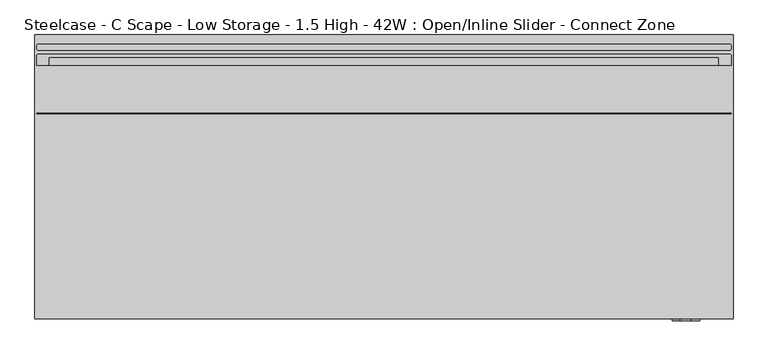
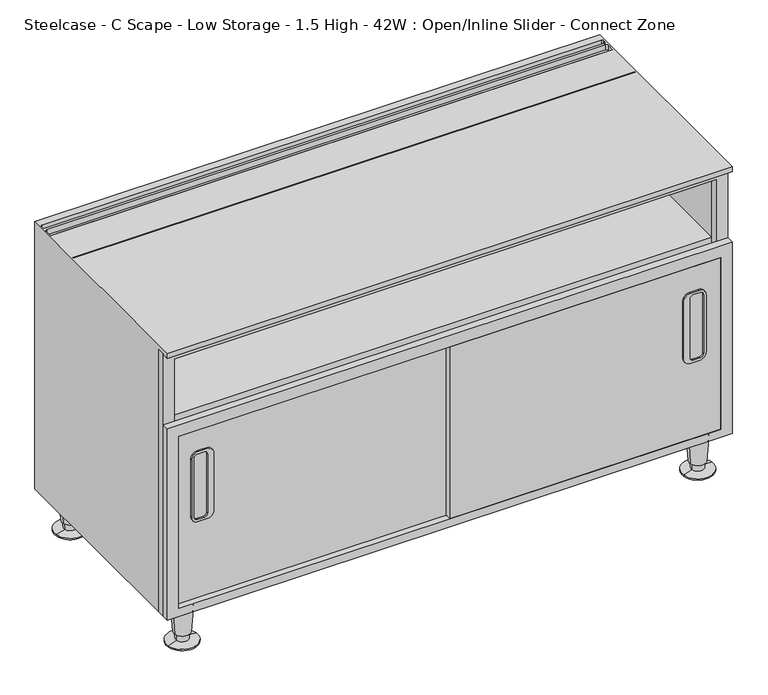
"""IFC4 building model written with IfcOpenShell, lengths in millimetres: furniture geometry, Steelcase - C Scape - Low Storage - 1.5 High - 42W : Open/Inline Slider - Connect Zone."""

from ifc_helpers import new_model, si_unit, point, frame, frame_2d, origin, place, context, project, spatial, polyline, circle_curve, trimmed, segment, composite_curve, outline, extrude, source, transform, mapped, element, save
from ifc_brep_helpers import plane_surface, cylinder_surface, revolved_surface, advanced_brep


def steelcase_c_scape_low_storage_1_5_high_42w_open_inline_a0bd3dcf(model_context):
    return source(origin(), model_context, "Body", "SolidModel", [
        extrude(outline(composite_curve([segment(polyline([(373.5963095, 972.3248301), (259.2993979, 972.3248301)]), True, "CONTINUOUS"), segment(trimmed(circle_curve(frame_2d((259.2993979, 985.0263804)), 12.7015503), [point((259.2993979, 972.3248301))], [point((246.5978477, 985.0263804))], False, "CARTESIAN"), True, "CONTINUOUS"), segment(polyline([(246.5978477, 985.0263804), (246.5978477, 1001.9160471)]), True, "CONTINUOUS"), segment(trimmed(circle_curve(frame_2d((259.2970725, 1001.9160471)), 12.6992249), [point((246.5978477, 1001.9160471))], [point((259.2970725, 1014.615272))], False, "CARTESIAN"), True, "CONTINUOUS"), segment(polyline([(259.2970725, 1014.615272), (373.5986349, 1014.615272)]), True, "CONTINUOUS"), segment(trimmed(circle_curve(frame_2d((373.5986349, 1001.9160471)), 12.6992249), [point((373.5986349, 1014.615272))], [point((386.2978598, 1001.9160471))], False, "CARTESIAN"), True, "CONTINUOUS"), segment(polyline([(386.2978598, 1001.9160471), (386.2978598, 985.0263804)]), True, "CONTINUOUS"), segment(trimmed(circle_curve(frame_2d((373.5963095, 985.0263804)), 12.7015503), [point((386.2978598, 985.0263804))], [point((373.5963095, 972.3248301))], False, "CARTESIAN"), True, "CONTINUOUS")], self_intersect=False), holes=[composite_curve([segment(polyline([(257.7449507, 984.3915354), (375.0960362, 984.3915354)]), True, "CONTINUOUS"), segment(trimmed(circle_curve(frame_2d((375.0960362, 990.7399851)), 6.3484497), [point((375.0960362, 984.3915354))], [point((381.444486, 990.7399851))], True, "CARTESIAN"), True, "CONTINUOUS"), segment(polyline([(381.444486, 990.7399851), (381.444486, 1003.4415354)]), True, "CONTINUOUS"), segment(trimmed(circle_curve(frame_2d((375.0960362, 1003.4415354)), 6.3484497), [point((381.444486, 1003.4415354))], [point((375.0960362, 1009.7899851))], True, "CARTESIAN"), True, "CONTINUOUS"), segment(polyline([(375.0960362, 1009.7899851), (257.7449507, 1009.7899851)]), True, "CONTINUOUS"), segment(trimmed(circle_curve(frame_2d((257.7449507, 1003.4415354)), 6.3484497), [point((257.7449507, 1009.7899851))], [point((251.396501, 1003.4415354))], True, "CARTESIAN"), True, "CONTINUOUS"), segment(polyline([(251.396501, 1003.4415354), (251.396501, 990.7399851)]), True, "CONTINUOUS"), segment(trimmed(circle_curve(frame_2d((257.7449507, 990.7399851)), 6.3484497), [point((251.396501, 990.7399851))], [point((257.7449507, 984.3915354))], True, "CARTESIAN"), True, "CONTINUOUS")], self_intersect=False)]), frame((0.0, -436.1123329, 0.0), z_axis=(0.0, 1.0, 0.0), x_axis=(0.0, 0.0, 1.0)), (0.0, 0.0, 1.0), 3.0423329),
        extrude(outline(composite_curve([segment(trimmed(circle_curve(frame_2d((373.5963095, 79.8686196)), 12.7015503), [point((373.5963095, 92.5701699))], [point((386.2978598, 79.8686196))], False, "CARTESIAN"), True, "CONTINUOUS"), segment(polyline([(386.2978598, 79.8686196), (386.2978598, 62.9789529)]), True, "CONTINUOUS"), segment(trimmed(circle_curve(frame_2d((373.5986349, 62.9789529)), 12.6992249), [point((386.2978598, 62.9789529))], [point((373.5986349, 50.279728))], False, "CARTESIAN"), True, "CONTINUOUS"), segment(polyline([(373.5986349, 50.279728), (259.2970725, 50.279728)]), True, "CONTINUOUS"), segment(trimmed(circle_curve(frame_2d((259.2970725, 62.9789529)), 12.6992249), [point((259.2970725, 50.279728))], [point((246.5978477, 62.9789529))], False, "CARTESIAN"), True, "CONTINUOUS"), segment(polyline([(246.5978477, 62.9789529), (246.5978477, 79.8686196)]), True, "CONTINUOUS"), segment(trimmed(circle_curve(frame_2d((259.2993979, 79.8686196)), 12.7015503), [point((246.5978477, 79.8686196))], [point((259.2993979, 92.5701699))], False, "CARTESIAN"), True, "CONTINUOUS"), segment(polyline([(259.2993979, 92.5701699), (373.5963095, 92.5701699)]), True, "CONTINUOUS")], self_intersect=False), holes=[composite_curve([segment(trimmed(circle_curve(frame_2d((257.7449507, 74.1550149)), 6.3484497), [point((257.7449507, 80.5034646))], [point((251.396501, 74.1550149))], True, "CARTESIAN"), True, "CONTINUOUS"), segment(polyline([(251.396501, 74.1550149), (251.396501, 61.4534646)]), True, "CONTINUOUS"), segment(trimmed(circle_curve(frame_2d((257.7449507, 61.4534646)), 6.3484497), [point((251.396501, 61.4534646))], [point((257.7449507, 55.1050149))], True, "CARTESIAN"), True, "CONTINUOUS"), segment(polyline([(257.7449507, 55.1050149), (375.0960362, 55.1050149)]), True, "CONTINUOUS"), segment(trimmed(circle_curve(frame_2d((375.0960362, 61.4534646)), 6.3484497), [point((375.0960362, 55.1050149))], [point((381.444486, 61.4534646))], True, "CARTESIAN"), True, "CONTINUOUS"), segment(polyline([(381.444486, 61.4534646), (381.444486, 74.1550149)]), True, "CONTINUOUS"), segment(trimmed(circle_curve(frame_2d((375.0960362, 74.1550149)), 6.3484497), [point((381.444486, 74.1550149))], [point((375.0960362, 80.5034646))], True, "CARTESIAN"), True, "CONTINUOUS"), segment(polyline([(375.0960362, 80.5034646), (257.7449507, 80.5034646)]), True, "CONTINUOUS")], self_intersect=False)]), frame((0.0, -424.6923408, 0.0), z_axis=(0.0, 1.0, 0.0), x_axis=(0.0, 0.0, 1.0)), (0.0, 0.0, 1.0), 3.048),
        extrude(outline(polyline([(76.1999955, 0.0), (76.1999955, 1065.53), (458.7875121, 1065.53), (458.7875121, 0.0), (76.1999955, 0.0)]), holes=[polyline([(92.7100024, 1043.5617285), (92.7100024, 21.3382324), (435.8005068, 21.3382324), (435.8005068, 1043.5617285), (92.7100024, 1043.5617285)])]), frame((0.0, -433.07, 0.0), z_axis=(0.0, 1.0, 0.0), x_axis=(0.0, 0.0, 1.0)), (0.0, 0.0, 1.0), 13.7215265),
        extrude(outline(polyline([(599.44, 532.2710512), (599.44, 0.0), (76.1999955, 0.0), (76.1999955, 1065.53), (599.44, 1065.53), (599.44, 532.2710512)]), holes=[polyline([(92.7100024, 1043.5617285), (92.7100024, 21.3382324), (582.93, 21.3382324), (582.93, 1043.5617285), (92.7100024, 1043.5617285)])]), frame((0.0, -419.3484735, 0.0), z_axis=(0.0, 1.0, 0.0), x_axis=(0.0, 0.0, 1.0)), (0.0, 0.0, 1.0), 14.9862946),
        advanced_brep(
        [(1038.2598695, -31.5218435, 76.2), (1000.5981305, -37.2840847, 76.2), (1019.429, -34.4029641, 76.2), (1034.3095214, -32.1262463, 19.05), (1004.5484786, -36.6796819, 19.05), (1031.8799345, -32.4979728, 19.05), (1006.9780655, -36.3079555, 19.05), (1031.191165, -32.6033544, 5.7545598), (1007.666835, -36.2025738, 5.7545598), (1048.5400485, -29.9489775, 2.5119506), (990.3179515, -38.8569507, 2.5119506), (1048.5400485, -29.9489775, 0.0), (990.3179515, -38.8569507, 0.0), (1019.429, -34.4029641, 0.0)],
        [
            (0, 1, circle_curve(frame((1019.429, -34.4029641, 76.2), z_axis=(0.0, 0.0, 1.0), x_axis=(0.0, -1.0, 0.0)), 19.05)),
            (1, 2),
            (2, 0),
            (1, 0, circle_curve(frame((1019.429, -34.4029641, 76.2), z_axis=(0.0, 0.0, 1.0), x_axis=(0.0, -1.0, 0.0)), 19.05)),
            (3, 4, circle_curve(frame((1019.429, -34.4029641, 19.05), z_axis=(0.0, 0.0, 1.0), x_axis=(0.0, -1.0, 0.0)), 15.0536827)),
            (4, 1),
            (0, 3),
            (4, 3, circle_curve(frame((1019.429, -34.4029641, 19.05), z_axis=(0.0, 0.0, 1.0), x_axis=(0.0, -1.0, 0.0)), 15.0536827)),
            (5, 6, circle_curve(frame((1019.429, -34.4029641, 19.05), z_axis=(0.0, 0.0, 1.0), x_axis=(0.0, -1.0, 0.0)), 12.5958232)),
            (6, 4),
            (3, 5),
            (6, 5, circle_curve(frame((1019.429, -34.4029641, 19.05), z_axis=(0.0, 0.0, 1.0), x_axis=(0.0, -1.0, 0.0)), 12.5958232)),
            (7, 8, circle_curve(frame((1019.429, -34.4029641, 5.7545598), z_axis=(0.0, 0.0, 1.0), x_axis=(0.0, -1.0, 0.0)), 11.8990387)),
            (8, 6),
            (5, 7),
            (8, 7, circle_curve(frame((1019.429, -34.4029641, 5.7545598), z_axis=(0.0, 0.0, 1.0), x_axis=(0.0, -1.0, 0.0)), 11.8990387)),
            (9, 10, circle_curve(frame((1019.429, -34.4029641, 2.5119506), z_axis=(0.0, 0.0, 1.0), x_axis=(0.0, -1.0, 0.0)), 29.4498071)),
            (10, 8),
            (7, 9),
            (10, 9, circle_curve(frame((1019.429, -34.4029641, 2.5119506), z_axis=(0.0, 0.0, 1.0), x_axis=(0.0, -1.0, 0.0)), 29.4498071)),
            (11, 12, circle_curve(frame((1019.429, -34.4029641, 0.0), z_axis=(0.0, 0.0, 1.0), x_axis=(0.0, -1.0, 0.0)), 29.4498071)),
            (12, 10),
            (9, 11),
            (12, 11, circle_curve(frame((1019.429, -34.4029641, 0.0), z_axis=(0.0, 0.0, 1.0), x_axis=(0.0, -1.0, 0.0)), 29.4498071)),
            (13, 12),
            (11, 13),
        ],
        [
            plane_surface(frame((1019.429, -34.4029641, 76.2), z_axis=(0.0, 0.0, 1.0), x_axis=(0.0, -1.0, 0.0))),
            revolved_surface(polyline([(1019.429, -53.4529641, 76.2), (1019.429, -49.4566468, 19.05)]), (1019.429, -34.4029641, 25.4), (0.0, 0.0, -1.0)),
            plane_surface(frame((1019.429, -34.4029641, 19.05), z_axis=(0.0, 0.0, -1.0), x_axis=(0.0, -1.0, 0.0))),
            revolved_surface(polyline([(1019.429, -46.9987873, 19.05), (1019.429, -46.3020028, 5.7545598)]), (1019.429, -34.4029641, 25.4), (0.0, 0.0, -1.0)),
            revolved_surface(polyline([(1019.429, -46.3020028, 5.7545598), (1019.429, -63.8527712, 2.5119506)]), (1019.429, -34.4029641, 25.4), (0.0, 0.0, -1.0)),
            cylinder_surface(frame((1019.429, -34.4029641, 25.4), z_axis=(0.0, 0.0, -1.0), x_axis=(0.0, -1.0, 0.0)), 29.4498071),
            plane_surface(frame((1019.429, -34.4029641, 0.0), z_axis=(0.0, 0.0, -1.0), x_axis=(0.0, -1.0, 0.0))),
        ],
        [
            (0, [[1, 2, 3]]),
            (0, [[4, -3, -2]]),
            (1, [[5, 6, -1, 7]]),
            (1, [[8, -7, -4, -6]]),
            (2, [[9, 10, -5, 11]]),
            (2, [[12, -11, -8, -10]]),
            (3, [[13, 14, -9, 15]]),
            (3, [[16, -15, -12, -14]]),
            (4, [[17, 18, -13, 19]]),
            (4, [[20, -19, -16, -18]]),
            (5, [[21, 22, -17, 23]]),
            (5, [[24, -23, -20, -22]]),
            (6, [[25, -21, 26]]),
            (6, [[-26, -24, -25]]),
        ],
    ),
        advanced_brep(
        [(1038.2598695, -397.1702762, 76.2), (1000.5981305, -402.9325174, 76.2), (1019.429, -400.0513968, 76.2), (1034.3095214, -397.774679, 19.05), (1004.5484786, -402.3281146, 19.05), (1031.8799345, -398.1464055, 19.05), (1006.9780655, -401.9563882, 19.05), (1031.191165, -398.2517871, 5.7545598), (1007.666835, -401.8510065, 5.7545598), (1048.5400485, -395.5974102, 2.5119506), (990.3179515, -404.5053834, 2.5119506), (1048.5400485, -395.5974102, 0.0), (990.3179515, -404.5053834, 0.0), (1019.429, -400.0513968, 0.0)],
        [
            (0, 1, circle_curve(frame((1019.429, -400.0513968, 76.2), z_axis=(0.0, 0.0, 1.0), x_axis=(0.0, -1.0, 0.0)), 19.05)),
            (1, 2),
            (2, 0),
            (1, 0, circle_curve(frame((1019.429, -400.0513968, 76.2), z_axis=(0.0, 0.0, 1.0), x_axis=(0.0, -1.0, 0.0)), 19.05)),
            (3, 4, circle_curve(frame((1019.429, -400.0513968, 19.05), z_axis=(0.0, 0.0, 1.0), x_axis=(0.0, -1.0, 0.0)), 15.0536827)),
            (4, 1),
            (0, 3),
            (4, 3, circle_curve(frame((1019.429, -400.0513968, 19.05), z_axis=(0.0, 0.0, 1.0), x_axis=(0.0, -1.0, 0.0)), 15.0536827)),
            (5, 6, circle_curve(frame((1019.429, -400.0513968, 19.05), z_axis=(0.0, 0.0, 1.0), x_axis=(0.0, -1.0, 0.0)), 12.5958232)),
            (6, 4),
            (3, 5),
            (6, 5, circle_curve(frame((1019.429, -400.0513968, 19.05), z_axis=(0.0, 0.0, 1.0), x_axis=(0.0, -1.0, 0.0)), 12.5958232)),
            (7, 8, circle_curve(frame((1019.429, -400.0513968, 5.7545598), z_axis=(0.0, 0.0, 1.0), x_axis=(0.0, -1.0, 0.0)), 11.8990387)),
            (8, 6),
            (5, 7),
            (8, 7, circle_curve(frame((1019.429, -400.0513968, 5.7545598), z_axis=(0.0, 0.0, 1.0), x_axis=(0.0, -1.0, 0.0)), 11.8990387)),
            (9, 10, circle_curve(frame((1019.429, -400.0513968, 2.5119506), z_axis=(0.0, 0.0, 1.0), x_axis=(0.0, -1.0, 0.0)), 29.4498071)),
            (10, 8),
            (7, 9),
            (10, 9, circle_curve(frame((1019.429, -400.0513968, 2.5119506), z_axis=(0.0, 0.0, 1.0), x_axis=(0.0, -1.0, 0.0)), 29.4498071)),
            (11, 12, circle_curve(frame((1019.429, -400.0513968, 0.0), z_axis=(0.0, 0.0, 1.0), x_axis=(0.0, -1.0, 0.0)), 29.4498071)),
            (12, 10),
            (9, 11),
            (12, 11, circle_curve(frame((1019.429, -400.0513968, 0.0), z_axis=(0.0, 0.0, 1.0), x_axis=(0.0, -1.0, 0.0)), 29.4498071)),
            (13, 12),
            (11, 13),
        ],
        [
            plane_surface(frame((1019.429, -400.0513968, 76.2), z_axis=(0.0, 0.0, 1.0), x_axis=(0.0, -1.0, 0.0))),
            revolved_surface(polyline([(1019.429, -419.1013968, 76.2), (1019.429, -415.1050795, 19.05)]), (1019.429, -400.0513968, 25.4), (0.0, 0.0, -1.0)),
            plane_surface(frame((1019.429, -400.0513968, 19.05), z_axis=(0.0, 0.0, -1.0), x_axis=(0.0, -1.0, 0.0))),
            revolved_surface(polyline([(1019.429, -412.64722, 19.05), (1019.429, -411.9504355, 5.7545598)]), (1019.429, -400.0513968, 25.4), (0.0, 0.0, -1.0)),
            revolved_surface(polyline([(1019.429, -411.9504355, 5.7545598), (1019.429, -429.5012039, 2.5119506)]), (1019.429, -400.0513968, 25.4), (0.0, 0.0, -1.0)),
            cylinder_surface(frame((1019.429, -400.0513968, 25.4), z_axis=(0.0, 0.0, -1.0), x_axis=(0.0, -1.0, 0.0)), 29.4498071),
            plane_surface(frame((1019.429, -400.0513968, 0.0), z_axis=(0.0, 0.0, -1.0), x_axis=(0.0, -1.0, 0.0))),
        ],
        [
            (0, [[1, 2, 3]]),
            (0, [[4, -3, -2]]),
            (1, [[5, 6, -1, 7]]),
            (1, [[8, -7, -4, -6]]),
            (2, [[9, 10, -5, 11]]),
            (2, [[12, -11, -8, -10]]),
            (3, [[13, 14, -9, 15]]),
            (3, [[16, -15, -12, -14]]),
            (4, [[17, 18, -13, 19]]),
            (4, [[20, -19, -16, -18]]),
            (5, [[21, 22, -17, 23]]),
            (5, [[24, -23, -20, -22]]),
            (6, [[25, -21, 26]]),
            (6, [[-26, -24, -25]]),
        ],
    ),
        advanced_brep(
        [(65.5422821, -397.1702762, 76.2), (27.8805432, -402.9325174, 76.2), (46.7114126, -400.0513968, 76.2), (61.5919341, -397.774679, 19.05), (31.8308912, -402.3281146, 19.05), (59.1623471, -398.1464055, 19.05), (34.2604781, -401.9563882, 19.05), (58.4735776, -398.2517871, 5.7545598), (34.9492476, -401.8510065, 5.7545598), (75.8224611, -395.5974102, 2.5119506), (17.6003641, -404.5053834, 2.5119506), (75.8224611, -395.5974102, 0.0), (17.6003641, -404.5053834, 0.0), (46.7114126, -400.0513968, 0.0)],
        [
            (0, 1, circle_curve(frame((46.7114126, -400.0513968, 76.2), z_axis=(0.0, 0.0, 1.0), x_axis=(0.0, -1.0, 0.0)), 19.05)),
            (1, 2),
            (2, 0),
            (1, 0, circle_curve(frame((46.7114126, -400.0513968, 76.2), z_axis=(0.0, 0.0, 1.0), x_axis=(0.0, -1.0, 0.0)), 19.05)),
            (3, 4, circle_curve(frame((46.7114126, -400.0513968, 19.05), z_axis=(0.0, 0.0, 1.0), x_axis=(0.0, -1.0, 0.0)), 15.0536827)),
            (4, 1),
            (0, 3),
            (4, 3, circle_curve(frame((46.7114126, -400.0513968, 19.05), z_axis=(0.0, 0.0, 1.0), x_axis=(0.0, -1.0, 0.0)), 15.0536827)),
            (5, 6, circle_curve(frame((46.7114126, -400.0513968, 19.05), z_axis=(0.0, 0.0, 1.0), x_axis=(0.0, -1.0, 0.0)), 12.5958232)),
            (6, 4),
            (3, 5),
            (6, 5, circle_curve(frame((46.7114126, -400.0513968, 19.05), z_axis=(0.0, 0.0, 1.0), x_axis=(0.0, -1.0, 0.0)), 12.5958232)),
            (7, 8, circle_curve(frame((46.7114126, -400.0513968, 5.7545598), z_axis=(0.0, 0.0, 1.0), x_axis=(0.0, -1.0, 0.0)), 11.8990387)),
            (8, 6),
            (5, 7),
            (8, 7, circle_curve(frame((46.7114126, -400.0513968, 5.7545598), z_axis=(0.0, 0.0, 1.0), x_axis=(0.0, -1.0, 0.0)), 11.8990387)),
            (9, 10, circle_curve(frame((46.7114126, -400.0513968, 2.5119506), z_axis=(0.0, 0.0, 1.0), x_axis=(0.0, -1.0, 0.0)), 29.4498071)),
            (10, 8),
            (7, 9),
            (10, 9, circle_curve(frame((46.7114126, -400.0513968, 2.5119506), z_axis=(0.0, 0.0, 1.0), x_axis=(0.0, -1.0, 0.0)), 29.4498071)),
            (11, 12, circle_curve(frame((46.7114126, -400.0513968, 0.0), z_axis=(0.0, 0.0, 1.0), x_axis=(0.0, -1.0, 0.0)), 29.4498071)),
            (12, 10),
            (9, 11),
            (12, 11, circle_curve(frame((46.7114126, -400.0513968, 0.0), z_axis=(0.0, 0.0, 1.0), x_axis=(0.0, -1.0, 0.0)), 29.4498071)),
            (13, 12),
            (11, 13),
        ],
        [
            plane_surface(frame((46.7114126, -400.0513968, 76.2), z_axis=(0.0, 0.0, 1.0), x_axis=(0.0, -1.0, 0.0))),
            revolved_surface(polyline([(46.7114126, -419.1013968, 76.2), (46.7114126, -415.1050795, 19.05)]), (46.7114126, -400.0513968, 25.4), (0.0, 0.0, -1.0)),
            plane_surface(frame((46.7114126, -400.0513968, 19.05), z_axis=(0.0, 0.0, -1.0), x_axis=(0.0, -1.0, 0.0))),
            revolved_surface(polyline([(46.7114126, -412.64722, 19.05), (46.7114126, -411.9504355, 5.7545598)]), (46.7114126, -400.0513968, 25.4), (0.0, 0.0, -1.0)),
            revolved_surface(polyline([(46.7114126, -411.9504355, 5.7545598), (46.7114126, -429.5012039, 2.5119506)]), (46.7114126, -400.0513968, 25.4), (0.0, 0.0, -1.0)),
            cylinder_surface(frame((46.7114126, -400.0513968, 25.4), z_axis=(0.0, 0.0, -1.0), x_axis=(0.0, -1.0, 0.0)), 29.4498071),
            plane_surface(frame((46.7114126, -400.0513968, 0.0), z_axis=(0.0, 0.0, -1.0), x_axis=(0.0, -1.0, 0.0))),
        ],
        [
            (0, [[1, 2, 3]]),
            (0, [[4, -3, -2]]),
            (1, [[5, 6, -1, 7]]),
            (1, [[8, -7, -4, -6]]),
            (2, [[9, 10, -5, 11]]),
            (2, [[12, -11, -8, -10]]),
            (3, [[13, 14, -9, 15]]),
            (3, [[16, -15, -12, -14]]),
            (4, [[17, 18, -13, 19]]),
            (4, [[20, -19, -16, -18]]),
            (5, [[21, 22, -17, 23]]),
            (5, [[24, -23, -20, -22]]),
            (6, [[25, -21, 26]]),
            (6, [[-26, -24, -25]]),
        ],
    ),
        advanced_brep(
        [(65.5422821, -31.5218435, 76.2), (27.8805432, -37.2840847, 76.2), (46.7114126, -34.4029641, 76.2), (61.5919341, -32.1262463, 19.05), (31.8308912, -36.6796819, 19.05), (59.1623471, -32.4979728, 19.05), (34.2604781, -36.3079555, 19.05), (58.4735776, -32.6033544, 5.7545598), (34.9492476, -36.2025738, 5.7545598), (75.8224611, -29.9489775, 2.5119506), (17.6003641, -38.8569507, 2.5119506), (75.8224611, -29.9489775, 0.0), (17.6003641, -38.8569507, 0.0), (46.7114126, -34.4029641, 0.0)],
        [
            (0, 1, circle_curve(frame((46.7114126, -34.4029641, 76.2), z_axis=(0.0, 0.0, 1.0), x_axis=(0.0, -1.0, 0.0)), 19.05)),
            (1, 2),
            (2, 0),
            (1, 0, circle_curve(frame((46.7114126, -34.4029641, 76.2), z_axis=(0.0, 0.0, 1.0), x_axis=(0.0, -1.0, 0.0)), 19.05)),
            (3, 4, circle_curve(frame((46.7114126, -34.4029641, 19.05), z_axis=(0.0, 0.0, 1.0), x_axis=(0.0, -1.0, 0.0)), 15.0536827)),
            (4, 1),
            (0, 3),
            (4, 3, circle_curve(frame((46.7114126, -34.4029641, 19.05), z_axis=(0.0, 0.0, 1.0), x_axis=(0.0, -1.0, 0.0)), 15.0536827)),
            (5, 6, circle_curve(frame((46.7114126, -34.4029641, 19.05), z_axis=(0.0, 0.0, 1.0), x_axis=(0.0, -1.0, 0.0)), 12.5958232)),
            (6, 4),
            (3, 5),
            (6, 5, circle_curve(frame((46.7114126, -34.4029641, 19.05), z_axis=(0.0, 0.0, 1.0), x_axis=(0.0, -1.0, 0.0)), 12.5958232)),
            (7, 8, circle_curve(frame((46.7114126, -34.4029641, 5.7545598), z_axis=(0.0, 0.0, 1.0), x_axis=(0.0, -1.0, 0.0)), 11.8990387)),
            (8, 6),
            (5, 7),
            (8, 7, circle_curve(frame((46.7114126, -34.4029641, 5.7545598), z_axis=(0.0, 0.0, 1.0), x_axis=(0.0, -1.0, 0.0)), 11.8990387)),
            (9, 10, circle_curve(frame((46.7114126, -34.4029641, 2.5119506), z_axis=(0.0, 0.0, 1.0), x_axis=(0.0, -1.0, 0.0)), 29.4498071)),
            (10, 8),
            (7, 9),
            (10, 9, circle_curve(frame((46.7114126, -34.4029641, 2.5119506), z_axis=(0.0, 0.0, 1.0), x_axis=(0.0, -1.0, 0.0)), 29.4498071)),
            (11, 12, circle_curve(frame((46.7114126, -34.4029641, 0.0), z_axis=(0.0, 0.0, 1.0), x_axis=(0.0, -1.0, 0.0)), 29.4498071)),
            (12, 10),
            (9, 11),
            (12, 11, circle_curve(frame((46.7114126, -34.4029641, 0.0), z_axis=(0.0, 0.0, 1.0), x_axis=(0.0, -1.0, 0.0)), 29.4498071)),
            (13, 12),
            (11, 13),
        ],
        [
            plane_surface(frame((46.7114126, -34.4029641, 76.2), z_axis=(0.0, 0.0, 1.0), x_axis=(0.0, -1.0, 0.0))),
            revolved_surface(polyline([(46.7114126, -53.4529641, 76.2), (46.7114126, -49.4566468, 19.05)]), (46.7114126, -34.4029641, 25.4), (0.0, 0.0, -1.0)),
            plane_surface(frame((46.7114126, -34.4029641, 19.05), z_axis=(0.0, 0.0, -1.0), x_axis=(0.0, -1.0, 0.0))),
            revolved_surface(polyline([(46.7114126, -46.9987873, 19.05), (46.7114126, -46.3020028, 5.7545598)]), (46.7114126, -34.4029641, 25.4), (0.0, 0.0, -1.0)),
            revolved_surface(polyline([(46.7114126, -46.3020028, 5.7545598), (46.7114126, -63.8527712, 2.5119506)]), (46.7114126, -34.4029641, 25.4), (0.0, 0.0, -1.0)),
            cylinder_surface(frame((46.7114126, -34.4029641, 25.4), z_axis=(0.0, 0.0, -1.0), x_axis=(0.0, -1.0, 0.0)), 29.4498071),
            plane_surface(frame((46.7114126, -34.4029641, 0.0), z_axis=(0.0, 0.0, -1.0), x_axis=(0.0, -1.0, 0.0))),
        ],
        [
            (0, [[1, 2, 3]]),
            (0, [[4, -3, -2]]),
            (1, [[5, 6, -1, 7]]),
            (1, [[8, -7, -4, -6]]),
            (2, [[9, 10, -5, 11]]),
            (2, [[12, -11, -8, -10]]),
            (3, [[13, 14, -9, 15]]),
            (3, [[16, -15, -12, -14]]),
            (4, [[17, 18, -13, 19]]),
            (4, [[20, -19, -16, -18]]),
            (5, [[21, 22, -17, 23]]),
            (5, [[24, -23, -20, -22]]),
            (6, [[25, -21, 26]]),
            (6, [[-26, -24, -25]]),
        ],
    ),
        advanced_brep(
        [(1065.53, -433.07, 609.6), (1065.53, -433.07, 599.44), (1065.53, -404.362179, 599.44), (1065.53, -404.362179, 76.2), (1065.53, 0.0, 76.1999955), (1065.53, 0.0055807, 609.6), (0.0, -433.07, 599.44), (0.0, -433.07, 609.6), (0.0, 0.0055807, 609.6), (0.0, 0.0, 76.1999955), (0.0, -404.362179, 76.2), (0.0, -404.362179, 599.44), (1060.0304567, -14.3420703, 609.6), (1062.7272317, -17.0388453, 609.6), (1062.7272317, -20.3138654, 609.6), (1059.7507358, -23.2903613, 609.6), (5.5670648, -23.2903613, 609.6), (2.7826272, -20.5059237, 609.6), (2.7826272, -17.0388453, 609.6), (5.4794022, -14.3420703, 609.6), (1060.0308823, -29.5783496, 609.6), (1062.7272317, -32.274699, 609.6), (1062.7272317, -46.4703418, 609.6), (2.7826272, -46.4703418, 609.6), (2.7826272, -32.0458511, 609.6), (5.2501287, -29.5783496, 609.6), (2.7826272, -119.3775195, 609.6), (1062.7272317, -119.3775195, 609.6), (1062.7272317, -120.6444193, 609.6), (2.7826272, -120.6444193, 609.6), (21.3382324, -404.362179, 599.44), (21.3382324, -126.9863574, 599.44), (1043.5617285, -126.9863574, 599.44), (1043.5617285, -404.362179, 599.44), (21.3382324, -126.9863574, 458.7875121), (1043.5617285, -126.9863574, 458.7875121), (1043.5617285, -120.6444193, 599.44), (1043.5617285, -120.6444193, 458.7875121), (21.3382324, -120.6444193, 458.7875121), (21.3382324, -120.6444193, 599.44), (2.7826272, -120.6444193, 599.44), (1062.7272317, -120.6444193, 599.44), (1043.5617285, -119.3775195, 599.44), (21.3382324, -119.3775195, 599.44), (21.3382324, -46.4703418, 599.44), (1043.5617285, -46.4703418, 599.44), (1060.0308823, -29.5783496, 599.44), (1062.7272317, -32.274699, 599.44), (1062.7272317, -20.3138654, 599.44), (1059.7507358, -23.2903613, 599.44), (5.5670648, -23.2903613, 599.44), (2.7826272, -20.5059237, 599.44), (2.7826272, -32.0458511, 599.44), (5.2501287, -29.5783496, 599.44), (1062.7272317, -46.4703418, 599.44), (2.7826272, -46.4703418, 599.44), (2.7826272, -119.3775195, 599.44), (1062.7272317, -119.3775195, 599.44), (5.4794022, -14.3420703, 599.44), (1060.0304567, -14.3420703, 599.44), (1062.7272317, -17.0388453, 599.44), (416.8174811, 0.0, 466.2677968), (416.8174811, 0.0, 432.6382043), (532.4475, 0.0, 432.6382043), (648.0775189, 0.0, 432.6382043), (648.0775189, 0.0, 466.2677968), (2.7826272, -17.0388453, 599.44), (1043.5617285, -34.4029641, 599.44), (21.3382324, -34.4029641, 599.44), (21.3382324, -34.4029641, 458.7875121), (1043.5617285, -34.4029641, 458.7875121), (416.8174811, -9.5194193, 466.2677968), (648.0775189, -9.5194193, 466.2677968), (648.0775189, -9.5194193, 435.8005068), (416.8174811, -9.5194193, 435.8005068), (648.0775189, -9.525, 432.6382043), (532.4475, -9.525, 432.6382043), (416.8174811, -9.525, 432.6382043), (21.3382324, -9.525, 435.8005068), (21.3382324, -9.525, 92.7100024), (1043.5617285, -9.525, 92.7100024), (1043.5617285, -9.525, 435.8005068), (21.3382324, -404.362179, 458.7875121), (21.3382324, -404.362179, 435.8005068), (21.3382324, -404.362179, 92.7100024), (1043.5617285, -404.362179, 458.7875121), (1043.5617285, -404.362179, 435.8005068), (1043.5617285, -404.362179, 92.7100024)],
        [
            (0, 1),
            (1, 2),
            (2, 3),
            (3, 4),
            (4, 5),
            (5, 0),
            (6, 7),
            (7, 8),
            (8, 9),
            (9, 10),
            (10, 11),
            (11, 6),
            (5, 8),
            (7, 0),
            (12, 13, circle_curve(frame((1060.0304567, -17.0388453, 609.6), z_axis=(0.0, 0.0, -1.0), x_axis=(1.0, 0.0, 0.0)), 2.696775)),
            (13, 14),
            (14, 15, circle_curve(frame((1059.7507358, -20.3138654, 609.6), z_axis=(0.0, 0.0, -1.0), x_axis=(1.0, 0.0, 0.0)), 2.9764959)),
            (15, 16),
            (16, 17, circle_curve(frame((5.5670648, -20.5059237, 609.6), z_axis=(0.0, 0.0, -1.0), x_axis=(1.0, 0.0, 0.0)), 2.7844376)),
            (17, 18),
            (18, 19, circle_curve(frame((5.4794022, -17.0388453, 609.6), z_axis=(0.0, 0.0, -1.0), x_axis=(1.0, 0.0, 0.0)), 2.696775)),
            (19, 12),
            (20, 21, circle_curve(frame((1060.0308823, -32.274699, 609.6), z_axis=(0.0, 0.0, -1.0), x_axis=(1.0, 0.0, 0.0)), 2.6963494)),
            (21, 22),
            (22, 23),
            (23, 24),
            (24, 25, circle_curve(frame((5.2501287, -32.0458511, 609.6), z_axis=(0.0, 0.0, -1.0), x_axis=(1.0, 0.0, 0.0)), 2.4675015)),
            (25, 20),
            (26, 27),
            (27, 28),
            (28, 29),
            (29, 26),
            (6, 1),
            (11, 30),
            (30, 31),
            (31, 32),
            (32, 33),
            (33, 2),
            (31, 34),
            (34, 35),
            (35, 32),
            (36, 37),
            (37, 38),
            (38, 39),
            (39, 40),
            (40, 29),
            (28, 41),
            (41, 36),
            (42, 43),
            (43, 44),
            (44, 45),
            (45, 42),
            (20, 46),
            (46, 47, circle_curve(frame((1060.0308823, -32.274699, 599.44), z_axis=(0.0, 0.0, -1.0), x_axis=(1.0, 0.0, 0.0)), 2.6963494)),
            (47, 21),
            (14, 48),
            (48, 49, circle_curve(frame((1059.7507358, -20.3138654, 599.44), z_axis=(0.0, 0.0, -1.0), x_axis=(1.0, 0.0, 0.0)), 2.9764959)),
            (49, 15),
            (49, 50),
            (50, 16),
            (50, 51, circle_curve(frame((5.5670648, -20.5059237, 599.44), z_axis=(0.0, 0.0, -1.0), x_axis=(1.0, 0.0, 0.0)), 2.7844376)),
            (51, 17),
            (24, 52),
            (52, 53, circle_curve(frame((5.2501287, -32.0458511, 599.44), z_axis=(0.0, 0.0, -1.0), x_axis=(1.0, 0.0, 0.0)), 2.4675015)),
            (53, 25),
            (53, 46),
            (22, 54),
            (54, 45),
            (44, 55),
            (55, 23),
            (26, 56),
            (56, 43),
            (42, 57),
            (57, 27),
            (19, 58),
            (58, 59),
            (59, 12),
            (59, 60, circle_curve(frame((1060.0304567, -17.0388453, 599.44), z_axis=(0.0, 0.0, -1.0), x_axis=(1.0, 0.0, 0.0)), 2.696775)),
            (60, 13),
            (4, 9),
            (61, 62),
            (62, 63),
            (63, 64),
            (64, 65),
            (65, 61),
            (18, 66),
            (66, 58, circle_curve(frame((5.4794022, -17.0388453, 599.44), z_axis=(0.0, 0.0, -1.0), x_axis=(1.0, 0.0, 0.0)), 2.696775)),
            (67, 68),
            (68, 69),
            (69, 70),
            (70, 67),
            (71, 72),
            (72, 73),
            (73, 74),
            (74, 71),
            (65, 72),
            (71, 61),
            (52, 55),
            (44, 68),
            (67, 45),
            (54, 47),
            (48, 60),
            (66, 51),
            (39, 43),
            (56, 40),
            (42, 36),
            (41, 57),
            (75, 76),
            (76, 77),
            (77, 74),
            (74, 78),
            (78, 79),
            (79, 80),
            (80, 81),
            (81, 73),
            (73, 75),
            (75, 64),
            (63, 76),
            (62, 77),
            (3, 10),
            (30, 82),
            (82, 34),
            (38, 69),
            (78, 83),
            (83, 84),
            (84, 79),
            (35, 85),
            (85, 33),
            (70, 37),
            (86, 81),
            (80, 87),
            (87, 86),
            (82, 85),
            (84, 87),
            (83, 86),
        ],
        [
            plane_surface(frame((1065.53, -433.07, 609.6), z_axis=(1.0, 0.0, 0.0), x_axis=(0.0, -1.0, 0.0))),
            plane_surface(frame((0.0, -433.07, 609.6), z_axis=(-1.0, 0.0, 0.0), x_axis=(0.0, 1.0, 0.0))),
            plane_surface(frame((1065.53, -120.6444193, 609.6), z_axis=(0.0, 0.0, 1.0), x_axis=(-1.0, 0.0, 0.0))),
            plane_surface(frame((1065.53, -433.07, 609.6), z_axis=(0.0, -1.0, 0.0), x_axis=(-1.0, 0.0, 0.0))),
            plane_surface(frame((1065.53, -433.07, 599.44), z_axis=(0.0, 0.0, -1.0), x_axis=(-1.0, 0.0, 0.0))),
            plane_surface(frame((1065.53, -126.9863574, 599.44), z_axis=(0.0, -1.0, 0.0), x_axis=(-1.0, 0.0, 0.0))),
            plane_surface(frame((1065.53, -120.6444193, 450.8499879), z_axis=(0.0, 1.0, 0.0), x_axis=(-1.0, 0.0, 0.0))),
            plane_surface(frame((1062.7272317, -32.274699, 599.44), z_axis=(0.0, 0.0, -1.0), x_axis=(0.0, 1.0, 0.0))),
            revolved_surface(polyline([(1062.7272317, -32.274699, 599.44), (1062.7272317, -32.274699, 609.6)]), (1060.0308823, -32.274699, 599.44), (0.0, 0.0, -1.0)),
            revolved_surface(polyline([(1062.7272317, -20.3138654, 599.44), (1062.7272317, -20.3138654, 609.6)]), (1059.7507358, -20.3138654, 599.44), (0.0, 0.0, -1.0)),
            plane_surface(frame((1059.7507358, -23.2903613, 609.6), z_axis=(0.0, 1.0, 0.0), x_axis=(0.0, 0.0, -1.0))),
            revolved_surface(polyline([(8.3515024, -20.5059237, 599.44), (8.3515024, -20.5059237, 609.6)]), (5.5670648, -20.5059237, 599.44), (0.0, 0.0, -1.0)),
            revolved_surface(polyline([(7.7176302, -32.0458511, 599.44), (7.7176302, -32.0458511, 609.6)]), (5.2501287, -32.0458511, 599.44), (0.0, 0.0, -1.0)),
            plane_surface(frame((5.2501287, -29.5783496, 609.6), z_axis=(0.0, -1.0, 0.0), x_axis=(0.0, 0.0, -1.0))),
            plane_surface(frame((1062.7272317, -46.4703418, 609.6), z_axis=(0.0, 1.0, 0.0), x_axis=(0.0, 0.0, -1.0))),
            plane_surface(frame((2.7826272, -119.3775195, 609.6), z_axis=(0.0, -1.0, 0.0), x_axis=(0.0, 0.0, -1.0))),
            plane_surface(frame((5.4794022, -14.3420703, 609.6), z_axis=(0.0, -1.0, 0.0), x_axis=(0.0, 0.0, -1.0))),
            revolved_surface(polyline([(1062.7272317, -17.0388453, 599.44), (1062.7272317, -17.0388453, 609.6)]), (1060.0304567, -17.0388453, 41.6295811), (0.0, 0.0, -1.0)),
            plane_surface(frame((1062.7272317, 0.0, 609.6), z_axis=(0.0, 1.0, 0.0), x_axis=(0.0, 0.0, -1.0))),
            revolved_surface(polyline([(8.1761772, -17.0388453, 599.44), (8.1761772, -17.0388453, 609.6)]), (5.4794022, -17.0388453, 41.6295811), (0.0, 0.0, -1.0)),
            plane_surface(frame((1065.53, -34.4029641, 599.44), z_axis=(0.0, -1.0, 0.0), x_axis=(-1.0, 0.0, 0.0))),
            plane_surface(frame((1065.53, -9.5194193, 458.7875121), z_axis=(0.0, 1.0, 0.0), x_axis=(-1.0, 0.0, 0.0))),
            plane_surface(frame((1065.53, -9.5194193, 466.2677968), z_axis=(0.0, 0.0, -1.0), x_axis=(-1.0, 0.0, 0.0))),
            plane_surface(frame((1065.53, 0.0, 599.44), z_axis=(0.0, 0.0, 1.0), x_axis=(-1.0, 0.0, 0.0))),
            plane_surface(frame((648.0775189, -9.525, 459.9177968), z_axis=(0.0, -1.0, 0.0), x_axis=(0.0, 0.0, -1.0))),
            plane_surface(frame((648.0775189, -9.525, 432.6382043), z_axis=(0.0, 0.0, 1.0), x_axis=(0.0, 1.0, 0.0))),
            plane_surface(frame((532.4475, -9.525, 432.6382043), z_axis=(0.0, 0.0, 1.0), x_axis=(0.0, 1.0, 0.0))),
            plane_surface(frame((0.0, -9.525, 76.1999955), z_axis=(0.0, 0.0, -1.0), x_axis=(0.0, 1.0, 0.0))),
            plane_surface(frame((21.3382324, -404.362179, 599.44), z_axis=(1.0, 0.0, 0.0), x_axis=(0.0, 0.0, -1.0))),
            plane_surface(frame((1043.5617285, -9.525, 599.44), z_axis=(-1.0, 0.0, 0.0), x_axis=(0.0, 0.0, -1.0))),
            plane_surface(frame((0.0, -9.525, 458.7875121), z_axis=(0.0, 0.0, 1.0), x_axis=(-1.0, 0.0, 0.0))),
            plane_surface(frame((0.0, -0.0055807, 92.7100024), z_axis=(0.0, 0.0, 1.0), x_axis=(-1.0, 0.0, 0.0))),
            plane_surface(frame((2.7826272, -120.6444193, 599.44), z_axis=(1.0, 0.0, 0.0), x_axis=(0.0, 1.0, 0.0))),
            plane_surface(frame((1062.7272317, -120.6444193, 609.6), z_axis=(-1.0, 0.0, 0.0), x_axis=(0.0, 0.0, 1.0))),
            plane_surface(frame((648.0775189, -9.525, 466.2677968), z_axis=(-1.0, 0.0, 0.0), x_axis=(0.0, 1.0, 0.0))),
            plane_surface(frame((416.8174811, -9.525, 432.6382043), z_axis=(1.0, 0.0, 0.0), x_axis=(0.0, 1.0, 0.0))),
            plane_surface(frame((0.0, -404.362179, 599.44), z_axis=(0.0, -1.0, 0.0), x_axis=(0.0, 0.0, -1.0))),
            plane_surface(frame((0.0, -9.525, 435.8005068), z_axis=(0.0, 0.0, -1.0), x_axis=(1.0, 0.0, 0.0))),
        ],
        [
            (0, [[1, 2, 3, 4, 5, 6]]),
            (1, [[7, 8, 9, 10, 11, 12]]),
            (2, [[-6, 13, -8, 14], [15, 16, 17, 18, 19, 20, 21, 22], [23, 24, 25, 26, 27, 28], [29, 30, 31, 32]]),
            (3, [[-1, -14, -7, 33]]),
            (4, [[-33, -12, 34, 35, 36, 37, 38, -2]]),
            (5, [[-36, 39, 40, 41]]),
            (6, [[42, 43, 44, 45, 46, -31, 47, 48]]),
            (7, [[49, 50, 51, 52]]),
            (8, [[-23, 53, 54, 55]]),
            (9, [[-17, 56, 57, 58]]),
            (10, [[-18, -58, 59, 60]]),
            (11, [[-19, -60, 61, 62]]),
            (12, [[-27, 63, 64, 65]]),
            (13, [[-28, -65, 66, -53]]),
            (14, [[-25, 67, 68, -51, 69, 70]]),
            (15, [[-29, 71, 72, -49, 73, 74]]),
            (16, [[-22, 75, 76, 77]]),
            (17, [[-15, -77, 78, 79]]),
            (18, [[-13, -5, 80, -9], [81, 82, 83, 84, 85]]),
            (19, [[-21, 86, 87, -75]]),
            (20, [[88, 89, 90, 91]]),
            (21, [[92, 93, 94, 95]]),
            (22, [[-85, 96, -92, 97]]),
            (23, [[-54, -66, -64, 98, -69, 99, -88, 100, -68, 101]]),
            (23, [[-57, 102, -78, -76, -87, 103, -61, -59]]),
            (23, [[104, -72, 105, -45]]),
            (23, [[106, -48, 107, -73]]),
            (24, [[108, 109, 110, 111, 112, 113, 114, 115, 116]]),
            (25, [[-108, 117, -83, 118]]),
            (26, [[-109, -118, -82, 119]]),
            (27, [[-4, 120, -10, -80]]),
            (28, [[-35, 121, 122, -39]]),
            (28, [[-99, -50, -104, -44, 123, -89]]),
            (28, [[124, 125, 126, -112]]),
            (29, [[-37, -41, 127, 128]]),
            (29, [[-100, -91, 129, -42, -106, -52]]),
            (29, [[130, -114, 131, 132]]),
            (30, [[-43, -129, -90, -123]]),
            (30, [[133, -127, -40, -122]]),
            (31, [[134, -131, -113, -126]]),
            (32, [[-20, -62, -103, -86]]),
            (32, [[-26, -70, -98, -63]]),
            (32, [[-32, -46, -105, -71]]),
            (33, [[-16, -79, -102, -56]]),
            (33, [[-24, -55, -101, -67]]),
            (33, [[-30, -74, -107, -47]]),
            (34, [[-84, -117, -116, -93, -96]]),
            (35, [[-81, -97, -95, -110, -119]]),
            (36, [[-34, -11, -120, -3, -38, -128, -133, -121], [135, -132, -134, -125]]),
            (37, [[-94, -115, -130, -135, -124, -111]]),
        ],
    ),
        extrude(outline(polyline([(532.4475, -422.5233329), (1043.5617285, -422.5233329), (1043.5617285, -433.07), (532.4475, -433.07), (532.4475, -422.5233329)])), frame((0.0, 0.0, 92.7100024), z_axis=(0.0, 0.0, 1.0), x_axis=(1.0, 0.0, 0.0)), (0.0, 0.0, 1.0), 343.0905044),
        extrude(outline(polyline([(532.4475, -415.2912402), (532.4475, -421.6443408), (21.3382324, -421.6443408), (21.3382324, -415.2912402), (532.4475, -415.2912402)])), frame((0.0, 0.0, 92.7100024), z_axis=(0.0, 0.0, 1.0), x_axis=(1.0, 0.0, 0.0)), (0.0, 0.0, 1.0), 343.0905044),
    ])


if __name__ == "__main__":
    model = new_model("IFC4")
    model_context = context("Model", 3, world=origin())
    ifc_project = project(units=[si_unit("LENGTHUNIT", "METRE", prefix="MILLI")], contexts=[model_context])
    site = spatial("IfcSite", under=ifc_project)
    building = spatial("IfcBuilding", under=site)
    placement = place(None, origin())
    steelcase_c_scape_low_storage_1_5_high_42w_open_inline_shape = steelcase_c_scape_low_storage_1_5_high_42w_open_inline_a0bd3dcf(model_context)
    element("IfcFurniture", 1, ObjectType="Steelcase - C Scape - Low Storage - 1.5 High - 42W : Open/Inline Slider - Connect Zone", at=placement, inside=building, context=model_context, shape_type="MappedRepresentation", body=[
        mapped(steelcase_c_scape_low_storage_1_5_high_42w_open_inline_shape, transform((0.0, 0.0, 0.0), x_axis=(1.0, 0.0, 0.0), y_axis=(0.0, 1.0, 0.0), z_axis=(0.0, 0.0, 1.0))),
    ])
    save(model, "model.ifc")
